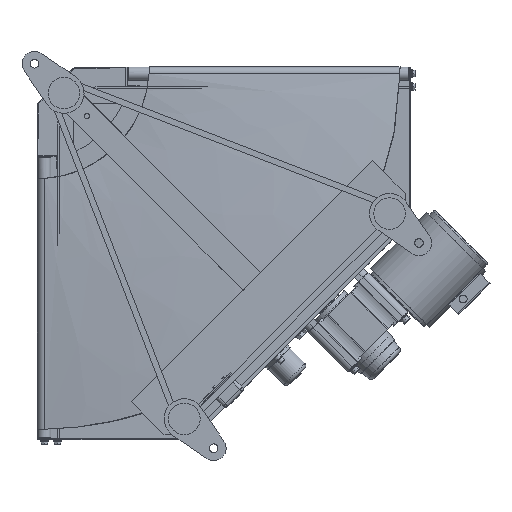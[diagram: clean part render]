
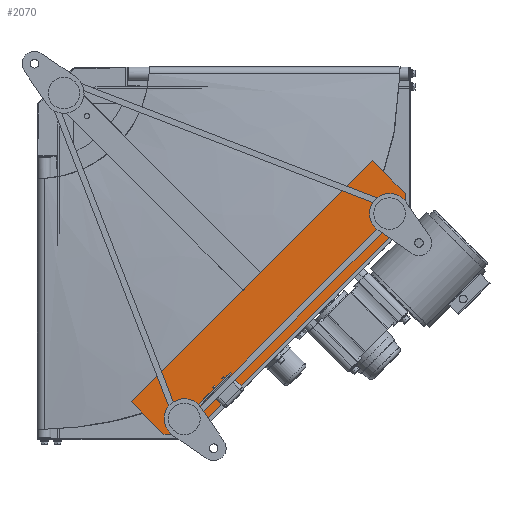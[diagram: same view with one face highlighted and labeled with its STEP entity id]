
A CAD part, front view. The second image highlights one B-rep face of the part: STEP entity #2070.
In plain terms, the highlighted planar face has unit normal (0, -1, 0).
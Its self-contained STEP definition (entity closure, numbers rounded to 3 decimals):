
#2070=ADVANCED_FACE('',(#7265),#7264,.F.);
#7264=PLANE('',#18595);
#7265=FACE_OUTER_BOUND('',#18596,.T.);
#18592=CARTESIAN_POINT('',(131.775,-167.5,-566.847));
#18593=DIRECTION('',(0.,1.,0.));
#18594=DIRECTION('',(0.,0.,1.));
#18595=AXIS2_PLACEMENT_3D('',#18592,#18593,#18594);
#18596=EDGE_LOOP('',(#24818,#24819,#24820,#24821,#24822,#24823));
#24818=ORIENTED_EDGE('',*,*,#29291,.F.);
#24819=ORIENTED_EDGE('',*,*,#29280,.F.);
#24820=ORIENTED_EDGE('',*,*,#29289,.F.);
#24821=ORIENTED_EDGE('',*,*,#29297,.F.);
#24822=ORIENTED_EDGE('',*,*,#29295,.F.);
#24823=ORIENTED_EDGE('',*,*,#29293,.F.);
#29280=EDGE_CURVE('',#37826,#37827,#37828,.T.);
#29289=EDGE_CURVE('',#37888,#37826,#37889,.T.);
#29291=EDGE_CURVE('',#37827,#37901,#37902,.T.);
#29293=EDGE_CURVE('',#37901,#37914,#37915,.T.);
#29295=EDGE_CURVE('',#37914,#37927,#37928,.T.);
#29297=EDGE_CURVE('',#37927,#37888,#37940,.T.);
#37826=VERTEX_POINT('',#55057);
#37827=VERTEX_POINT('',#55058);
#37828=LINE('',#55059,#55060);
#37888=VERTEX_POINT('',#55092);
#37889=LINE('',#55093,#55094);
#37901=VERTEX_POINT('',#55099);
#37902=LINE('',#55100,#55101);
#37914=VERTEX_POINT('',#55106);
#37915=LINE('',#55107,#55108);
#37927=VERTEX_POINT('',#55113);
#37928=LINE('',#55114,#55115);
#37940=LINE('',#55120,#55121);
#55057=CARTESIAN_POINT('',(507.349,-167.5,-141.775));
#55058=CARTESIAN_POINT('',(556.847,-167.5,-191.272));
#55059=CARTESIAN_POINT('',(507.349,-167.5,-141.775));
#55060=VECTOR('',#55061,70.);
#55061=DIRECTION('',(0.707,0.,-0.707));
#55092=CARTESIAN_POINT('',(141.775,-167.5,-507.349));
#55093=CARTESIAN_POINT('',(141.775,-167.5,-507.349));
#55094=VECTOR('',#55095,517.);
#55095=DIRECTION('',(0.707,0.,0.707));
#55099=CARTESIAN_POINT('',(556.847,-167.5,-233.699));
#55100=CARTESIAN_POINT('',(556.847,-167.5,-191.272));
#55101=VECTOR('',#55102,42.426);
#55102=DIRECTION('',(0.,0.,-1.));
#55106=CARTESIAN_POINT('',(233.699,-167.5,-556.847));
#55107=CARTESIAN_POINT('',(556.847,-167.5,-233.699));
#55108=VECTOR('',#55109,457.);
#55109=DIRECTION('',(-0.707,0.,-0.707));
#55113=CARTESIAN_POINT('',(191.272,-167.5,-556.847));
#55114=CARTESIAN_POINT('',(233.699,-167.5,-556.847));
#55115=VECTOR('',#55116,42.426);
#55116=DIRECTION('',(-1.,0.,0.));
#55120=CARTESIAN_POINT('',(191.272,-167.5,-556.847));
#55121=VECTOR('',#55122,70.);
#55122=DIRECTION('',(-0.707,0.,0.707));
